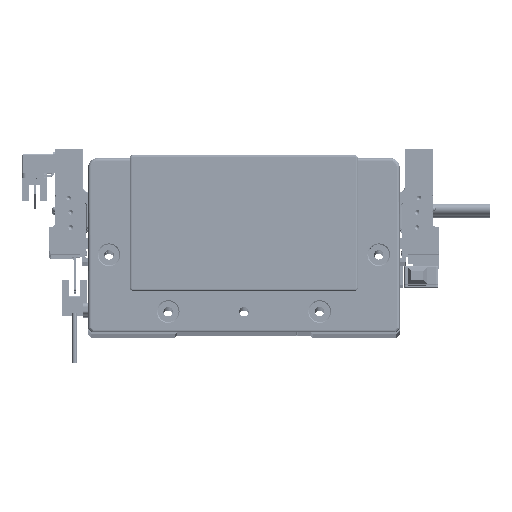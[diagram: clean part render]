
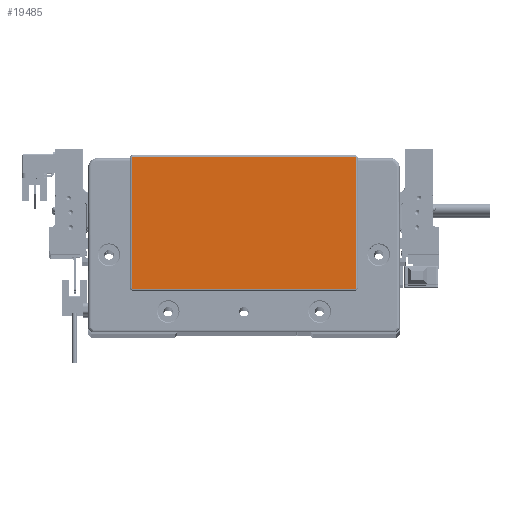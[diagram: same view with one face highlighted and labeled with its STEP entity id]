
A CAD part, top view. The second image highlights one B-rep face of the part: STEP entity #19485.
In plain terms, the highlighted planar face has unit normal (0, 0, 1) as drawn and (0, 0, -1) by its records, which use the part's own axes.
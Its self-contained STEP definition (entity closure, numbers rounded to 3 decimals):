
#374 = DIRECTION ( 'NONE',  ( 0., 0., -1. ) ) ;
#394 = FACE_OUTER_BOUND ( 'NONE', #54252, .T. ) ;
#1182 = CARTESIAN_POINT ( 'NONE',  ( -58.75, 45.8, -2. ) ) ;
#2354 = VERTEX_POINT ( 'NONE', #107073 ) ;
#3551 = CARTESIAN_POINT ( 'NONE',  ( 58.75, 45.3, -2. ) ) ;
#5188 = VERTEX_POINT ( 'NONE', #26183 ) ;
#6102 = DIRECTION ( 'NONE',  ( -1., 0., 0. ) ) ;
#10151 = CIRCLE ( 'NONE', #74191, 0.5 ) ;
#11110 = CIRCLE ( 'NONE', #104340, 0.5 ) ;
#13746 = VECTOR ( 'NONE', #21207, 1000. ) ;
#15640 = EDGE_CURVE ( 'NONE', #33134, #2354, #84571, .T. ) ;
#17617 = VECTOR ( 'NONE', #6102, 1000. ) ;
#17724 = CARTESIAN_POINT ( 'NONE',  ( 58.75, 45.8, -2. ) ) ;
#17740 = CARTESIAN_POINT ( 'NONE',  ( -59.25, 45.3, -2. ) ) ;
#19485 = ADVANCED_FACE ( 'NONE', ( #394 ), #62246, .T. ) ;
#21207 = DIRECTION ( 'NONE',  ( 0., -1., 0. ) ) ;
#24168 = VERTEX_POINT ( 'NONE', #1182 ) ;
#26183 = CARTESIAN_POINT ( 'NONE',  ( 59.25, 45.3, -2. ) ) ;
#29305 = DIRECTION ( 'NONE',  ( -1., 0., 0. ) ) ;
#33134 = VERTEX_POINT ( 'NONE', #67694 ) ;
#34189 = DIRECTION ( 'NONE',  ( 1., 0., 0. ) ) ;
#34487 = EDGE_CURVE ( 'NONE', #5188, #98498, #48662, .T. ) ;
#34746 = CARTESIAN_POINT ( 'NONE',  ( 0., 0., -2. ) ) ;
#35689 = DIRECTION ( 'NONE',  ( 0., 0., -1. ) ) ;
#36461 = DIRECTION ( 'NONE',  ( 0., 0., -1. ) ) ;
#39519 = CARTESIAN_POINT ( 'NONE',  ( 59.25, -23.3, -2. ) ) ;
#42586 = EDGE_CURVE ( 'NONE', #2354, #89908, #11110, .T. ) ;
#44563 = CARTESIAN_POINT ( 'NONE',  ( -58.75, 45.3, -2. ) ) ;
#46149 = CARTESIAN_POINT ( 'NONE',  ( 59.25, -23.3, -2. ) ) ;
#46797 = ORIENTED_EDGE ( 'NONE', *, *, #99366, .T. ) ;
#47156 = ORIENTED_EDGE ( 'NONE', *, *, #15640, .T. ) ;
#48662 = LINE ( 'NONE', #39519, #13746 ) ;
#50221 = VECTOR ( 'NONE', #34189, 1000. ) ;
#52935 = EDGE_CURVE ( 'NONE', #100742, #24168, #88582, .T. ) ;
#53624 = DIRECTION ( 'NONE',  ( -1., 0., 0. ) ) ;
#54252 = EDGE_LOOP ( 'NONE', ( #101828, #60331, #47156, #95638, #56232, #79658, #46797, #81129 ) ) ;
#56232 = ORIENTED_EDGE ( 'NONE', *, *, #86714, .T. ) ;
#58818 = CARTESIAN_POINT ( 'NONE',  ( -58.75, -23.8, -2. ) ) ;
#59369 = AXIS2_PLACEMENT_3D ( 'NONE', #69106, #374, #77697 ) ;
#60331 = ORIENTED_EDGE ( 'NONE', *, *, #108305, .T. ) ;
#60421 = VECTOR ( 'NONE', #69356, 1000. ) ;
#60543 = CARTESIAN_POINT ( 'NONE',  ( 58.75, 45.8, -2. ) ) ;
#61892 = CARTESIAN_POINT ( 'NONE',  ( -59.25, 45.3, -2. ) ) ;
#62246 = PLANE ( 'NONE',  #100355 ) ;
#63492 = DIRECTION ( 'NONE',  ( -1., 0., 0. ) ) ;
#67694 = CARTESIAN_POINT ( 'NONE',  ( 58.75, -23.8, -2. ) ) ;
#69106 = CARTESIAN_POINT ( 'NONE',  ( 58.75, -23.3, -2. ) ) ;
#69356 = DIRECTION ( 'NONE',  ( 0., 1., 0. ) ) ;
#70485 = LINE ( 'NONE', #61892, #60421 ) ;
#70645 = DIRECTION ( 'NONE',  ( -1., 0., 0. ) ) ;
#70946 = DIRECTION ( 'NONE',  ( 0., 0., -1. ) ) ;
#72837 = DIRECTION ( 'NONE',  ( 0., 0., -1. ) ) ;
#74191 = AXIS2_PLACEMENT_3D ( 'NONE', #3551, #72837, #29305 ) ;
#77697 = DIRECTION ( 'NONE',  ( -1., 0., 0. ) ) ;
#79658 = ORIENTED_EDGE ( 'NONE', *, *, #52935, .T. ) ;
#81129 = ORIENTED_EDGE ( 'NONE', *, *, #100407, .T. ) ;
#81275 = CIRCLE ( 'NONE', #59369, 0.5 ) ;
#84571 = LINE ( 'NONE', #58818, #17617 ) ;
#86660 = CARTESIAN_POINT ( 'NONE',  ( -58.75, -23.3, -2. ) ) ;
#86714 = EDGE_CURVE ( 'NONE', #89908, #100742, #70485, .T. ) ;
#87053 = CARTESIAN_POINT ( 'NONE',  ( -59.25, -23.3, -2. ) ) ;
#88582 = CIRCLE ( 'NONE', #101349, 0.5 ) ;
#89908 = VERTEX_POINT ( 'NONE', #87053 ) ;
#91460 = VERTEX_POINT ( 'NONE', #17724 ) ;
#95638 = ORIENTED_EDGE ( 'NONE', *, *, #42586, .T. ) ;
#98498 = VERTEX_POINT ( 'NONE', #46149 ) ;
#99366 = EDGE_CURVE ( 'NONE', #24168, #91460, #104038, .T. ) ;
#100355 = AXIS2_PLACEMENT_3D ( 'NONE', #34746, #36461, #53624 ) ;
#100407 = EDGE_CURVE ( 'NONE', #91460, #5188, #10151, .T. ) ;
#100742 = VERTEX_POINT ( 'NONE', #17740 ) ;
#101349 = AXIS2_PLACEMENT_3D ( 'NONE', #44563, #70946, #63492 ) ;
#101828 = ORIENTED_EDGE ( 'NONE', *, *, #34487, .T. ) ;
#104038 = LINE ( 'NONE', #60543, #50221 ) ;
#104340 = AXIS2_PLACEMENT_3D ( 'NONE', #86660, #35689, #70645 ) ;
#107073 = CARTESIAN_POINT ( 'NONE',  ( -58.75, -23.8, -2. ) ) ;
#108305 = EDGE_CURVE ( 'NONE', #98498, #33134, #81275, .T. ) ;
